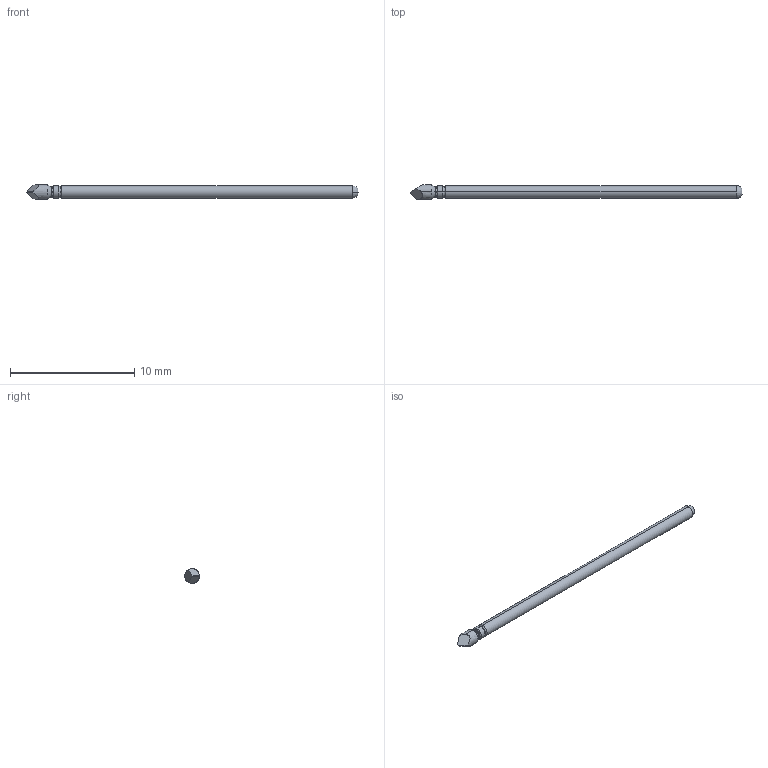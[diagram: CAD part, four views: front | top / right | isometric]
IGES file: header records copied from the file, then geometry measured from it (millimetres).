
Start section: SolidWorks IGES file using analytic representation for surfaces
Global section: file name: Z:\probe solid model mockups\Solidworks models\Parts\LFRE-1T FULL.IGS; native system: SolidWorks 2016; preprocessor: SolidWorks 2016; author: mlee; date: 180927.163818; units: inch
Bounding box: 26.67 x 1.19 x 1.19 mm (x, y, z)
Surface area: 86 mm2 (no closed solid volume)
Topology: 0 solids, 0 shells, 23 faces, 174 edges, 174 vertices
Faces by surface type: revolution 14, bspline 9
